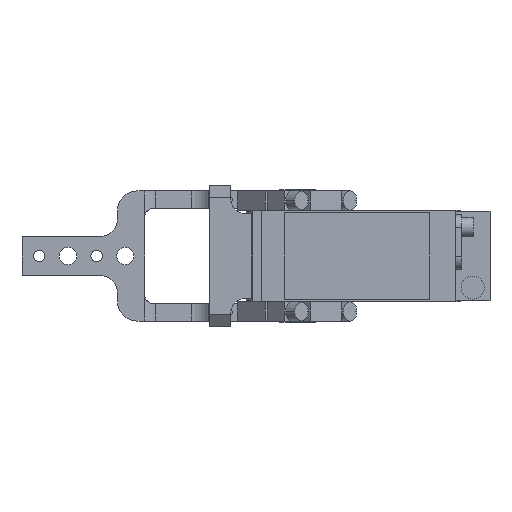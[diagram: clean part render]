
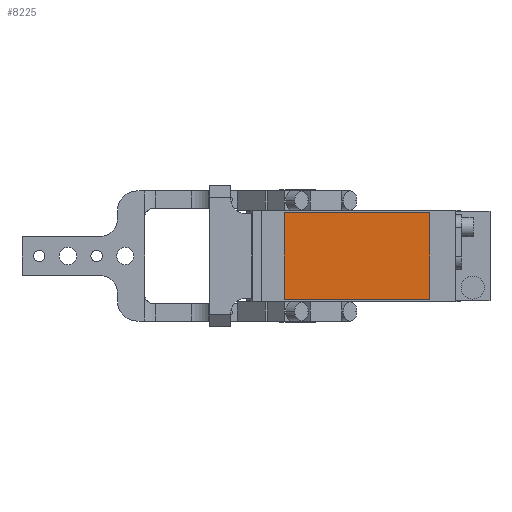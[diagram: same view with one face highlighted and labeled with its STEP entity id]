
A CAD part, front view. The second image highlights one B-rep face of the part: STEP entity #8225.
In plain terms, the highlighted planar face has unit normal (0, -1, 0).
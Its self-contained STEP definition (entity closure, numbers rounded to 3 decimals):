
#10 = CARTESIAN_POINT ( 'NONE',  ( 69., -280.5, -22.5 ) ) ;
#400 = LINE ( 'NONE', #5016, #1611 ) ;
#814 = EDGE_CURVE ( 'NONE', #9974, #3766, #14773, .T. ) ;
#1204 = AXIS2_PLACEMENT_3D ( 'NONE', #11086, #5352, #2889 ) ;
#1611 = VECTOR ( 'NONE', #11952, 1000. ) ;
#2889 = DIRECTION ( 'NONE',  ( 0., 0., -1. ) ) ;
#3674 = EDGE_LOOP ( 'NONE', ( #12030, #8776, #14170, #9004 ) ) ;
#3766 = VERTEX_POINT ( 'NONE', #10 ) ;
#4779 = CARTESIAN_POINT ( 'NONE',  ( -7., -280.5, 22.5 ) ) ;
#5016 = CARTESIAN_POINT ( 'NONE',  ( -7., -280.5, 22.5 ) ) ;
#5352 = DIRECTION ( 'NONE',  ( 0., -1., 0. ) ) ;
#5904 = CARTESIAN_POINT ( 'NONE',  ( 69., -280.5, 22.5 ) ) ;
#6619 = FACE_OUTER_BOUND ( 'NONE', #3674, .T. ) ;
#6717 = CARTESIAN_POINT ( 'NONE',  ( -7., -280.5, 22.5 ) ) ;
#6745 = EDGE_CURVE ( 'NONE', #3766, #15049, #12718, .T. ) ;
#7720 = VERTEX_POINT ( 'NONE', #4779 ) ;
#8113 = DIRECTION ( 'NONE',  ( 0., 0., 1. ) ) ;
#8225 = ADVANCED_FACE ( 'NONE', ( #6619 ), #13606, .T. ) ;
#8776 = ORIENTED_EDGE ( 'NONE', *, *, #814, .T. ) ;
#8965 = DIRECTION ( 'NONE',  ( 1., 0., 0. ) ) ;
#9004 = ORIENTED_EDGE ( 'NONE', *, *, #14469, .T. ) ;
#9945 = DIRECTION ( 'NONE',  ( 0., 0., -1. ) ) ;
#9974 = VERTEX_POINT ( 'NONE', #14021 ) ;
#10581 = VECTOR ( 'NONE', #8965, 1000. ) ;
#11086 = CARTESIAN_POINT ( 'NONE',  ( 0., -280.5, 0. ) ) ;
#11952 = DIRECTION ( 'NONE',  ( -1., 0., 0. ) ) ;
#12030 = ORIENTED_EDGE ( 'NONE', *, *, #13468, .T. ) ;
#12245 = VECTOR ( 'NONE', #8113, 1000. ) ;
#12318 = LINE ( 'NONE', #6717, #14024 ) ;
#12718 = LINE ( 'NONE', #5904, #12245 ) ;
#13468 = EDGE_CURVE ( 'NONE', #7720, #9974, #12318, .T. ) ;
#13606 = PLANE ( 'NONE',  #1204 ) ;
#13628 = CARTESIAN_POINT ( 'NONE',  ( -7., -280.5, -22.5 ) ) ;
#14021 = CARTESIAN_POINT ( 'NONE',  ( -7., -280.5, -22.5 ) ) ;
#14024 = VECTOR ( 'NONE', #9945, 1000. ) ;
#14170 = ORIENTED_EDGE ( 'NONE', *, *, #6745, .T. ) ;
#14469 = EDGE_CURVE ( 'NONE', #15049, #7720, #400, .T. ) ;
#14521 = CARTESIAN_POINT ( 'NONE',  ( 69., -280.5, 22.5 ) ) ;
#14773 = LINE ( 'NONE', #13628, #10581 ) ;
#15049 = VERTEX_POINT ( 'NONE', #14521 ) ;
